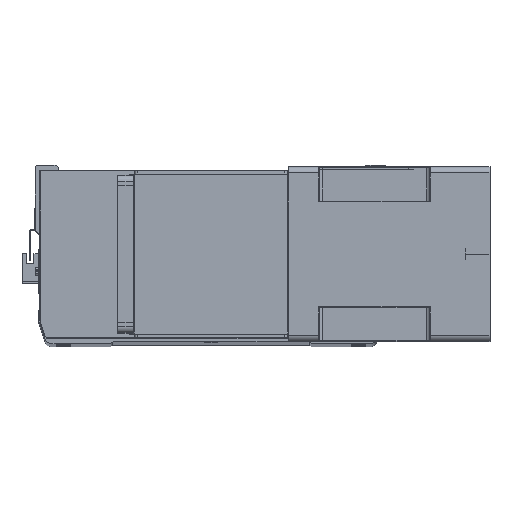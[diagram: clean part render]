
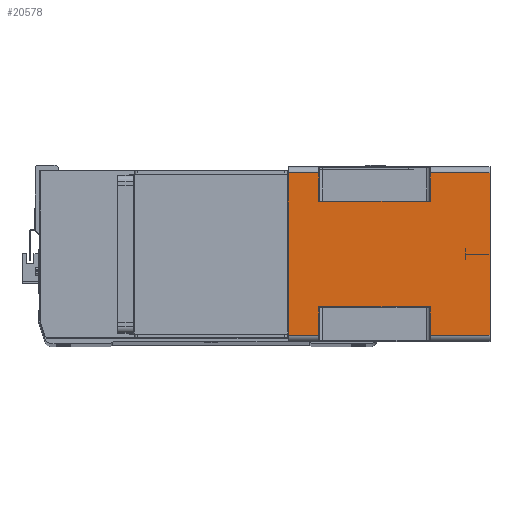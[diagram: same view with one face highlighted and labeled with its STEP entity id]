
A CAD part, top view. The second image highlights one B-rep face of the part: STEP entity #20578.
In plain terms, the highlighted planar face has unit normal (0, 0, 1) as drawn and (1, 0, 0) by its records, which use the part's own axes.
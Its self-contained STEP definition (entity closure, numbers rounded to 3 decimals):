
#74 = DIRECTION ( 'NONE',  ( 0., 1., 0. ) ) ;
#659 = VERTEX_POINT ( 'NONE', #13664 ) ;
#1725 = EDGE_CURVE ( 'NONE', #17101, #15564, #21702, .T. ) ;
#1761 = CARTESIAN_POINT ( 'NONE',  ( 71., -66., -115.5 ) ) ;
#1765 = VERTEX_POINT ( 'NONE', #10404 ) ;
#2154 = CARTESIAN_POINT ( 'NONE',  ( 71., -43., -24.5 ) ) ;
#2884 = ORIENTED_EDGE ( 'NONE', *, *, #30735, .T. ) ;
#2901 = DIRECTION ( 'NONE',  ( 0., 1., 0. ) ) ;
#3221 = ORIENTED_EDGE ( 'NONE', *, *, #29967, .T. ) ;
#3636 = PLANE ( 'NONE',  #12095 ) ;
#3862 = VECTOR ( 'NONE', #8593, 1000. ) ;
#4167 = DIRECTION ( 'NONE',  ( 0., -1., 0. ) ) ;
#4722 = LINE ( 'NONE', #25003, #16651 ) ;
#5100 = CARTESIAN_POINT ( 'NONE',  ( 71., 43., -115.5 ) ) ;
#5817 = LINE ( 'NONE', #5100, #22667 ) ;
#6003 = VECTOR ( 'NONE', #2901, 1000. ) ;
#6011 = EDGE_CURVE ( 'NONE', #29678, #15564, #4722, .T. ) ;
#6401 = DIRECTION ( 'NONE',  ( 0., 0., -1. ) ) ;
#7153 = VECTOR ( 'NONE', #12909, 1000. ) ;
#7454 = VERTEX_POINT ( 'NONE', #27163 ) ;
#7902 = LINE ( 'NONE', #10616, #7153 ) ;
#7908 = CARTESIAN_POINT ( 'NONE',  ( 71., 66., -164. ) ) ;
#8097 = CARTESIAN_POINT ( 'NONE',  ( 71., -66., -24.5 ) ) ;
#8142 = DIRECTION ( 'NONE',  ( 0., -1., 0. ) ) ;
#8239 = EDGE_CURVE ( 'NONE', #12197, #29108, #25054, .T. ) ;
#8593 = DIRECTION ( 'NONE',  ( 0., 0., 1. ) ) ;
#8599 = ORIENTED_EDGE ( 'NONE', *, *, #1725, .F. ) ;
#8659 = EDGE_CURVE ( 'NONE', #25346, #29108, #20494, .T. ) ;
#9062 = ORIENTED_EDGE ( 'NONE', *, *, #22019, .F. ) ;
#9242 = VECTOR ( 'NONE', #13213, 1000. ) ;
#9318 = VECTOR ( 'NONE', #4167, 1000. ) ;
#10283 = CARTESIAN_POINT ( 'NONE',  ( 71., 66., -164. ) ) ;
#10404 = CARTESIAN_POINT ( 'NONE',  ( 71., 43., -115.5 ) ) ;
#10616 = CARTESIAN_POINT ( 'NONE',  ( 71., -66., -24.5 ) ) ;
#10710 = CARTESIAN_POINT ( 'NONE',  ( 71., -43., -164. ) ) ;
#10981 = VECTOR ( 'NONE', #74, 1000. ) ;
#11336 = EDGE_LOOP ( 'NONE', ( #18308, #16017, #22051, #27863, #26136, #25393, #9062, #2884, #11571, #8599, #24420, #3221 ) ) ;
#11380 = VECTOR ( 'NONE', #17488, 1000. ) ;
#11571 = ORIENTED_EDGE ( 'NONE', *, *, #6011, .T. ) ;
#11595 = DIRECTION ( 'NONE',  ( 0., 0., 1. ) ) ;
#12095 = AXIS2_PLACEMENT_3D ( 'NONE', #20371, #17829, #18039 ) ;
#12197 = VERTEX_POINT ( 'NONE', #27704 ) ;
#12889 = LINE ( 'NONE', #7908, #11380 ) ;
#12909 = DIRECTION ( 'NONE',  ( 0., 1., 0. ) ) ;
#13213 = DIRECTION ( 'NONE',  ( 0., 0., 1. ) ) ;
#13377 = CARTESIAN_POINT ( 'NONE',  ( 71., -66., -164. ) ) ;
#13664 = CARTESIAN_POINT ( 'NONE',  ( 71., 43., -24.5 ) ) ;
#13866 = DIRECTION ( 'NONE',  ( 0., 1., 0. ) ) ;
#14277 = CARTESIAN_POINT ( 'NONE',  ( 71., -43., -115.5 ) ) ;
#14586 = EDGE_CURVE ( 'NONE', #25346, #29788, #17818, .T. ) ;
#14932 = CARTESIAN_POINT ( 'NONE',  ( 71., -66., -115.5 ) ) ;
#15564 = VERTEX_POINT ( 'NONE', #29516 ) ;
#15668 = EDGE_CURVE ( 'NONE', #19062, #17101, #23333, .T. ) ;
#16017 = ORIENTED_EDGE ( 'NONE', *, *, #8659, .T. ) ;
#16510 = LINE ( 'NONE', #23606, #25546 ) ;
#16651 = VECTOR ( 'NONE', #27410, 1000. ) ;
#17101 = VERTEX_POINT ( 'NONE', #26702 ) ;
#17153 = CARTESIAN_POINT ( 'NONE',  ( 71., -43., -24.5 ) ) ;
#17488 = DIRECTION ( 'NONE',  ( 0., 0., 1. ) ) ;
#17818 = LINE ( 'NONE', #10710, #9242 ) ;
#17829 = DIRECTION ( 'NONE',  ( 1., 0., 0. ) ) ;
#18039 = DIRECTION ( 'NONE',  ( 0., 1., 0. ) ) ;
#18073 = CARTESIAN_POINT ( 'NONE',  ( 71., -66., -164. ) ) ;
#18308 = ORIENTED_EDGE ( 'NONE', *, *, #14586, .F. ) ;
#19062 = VERTEX_POINT ( 'NONE', #8097 ) ;
#19483 = VECTOR ( 'NONE', #6401, 1000. ) ;
#19928 = CARTESIAN_POINT ( 'NONE',  ( 71., -66., 0. ) ) ;
#20371 = CARTESIAN_POINT ( 'NONE',  ( 71., -66., -164. ) ) ;
#20494 = LINE ( 'NONE', #1761, #9318 ) ;
#20578 = ADVANCED_FACE ( 'NONE', ( #25688 ), #3636, .T. ) ;
#21702 = LINE ( 'NONE', #19928, #6003 ) ;
#22019 = EDGE_CURVE ( 'NONE', #659, #1765, #28146, .T. ) ;
#22051 = ORIENTED_EDGE ( 'NONE', *, *, #8239, .F. ) ;
#22207 = LINE ( 'NONE', #17153, #10981 ) ;
#22644 = VERTEX_POINT ( 'NONE', #10283 ) ;
#22667 = VECTOR ( 'NONE', #8142, 1000. ) ;
#23157 = VECTOR ( 'NONE', #11595, 1000. ) ;
#23333 = LINE ( 'NONE', #18073, #3862 ) ;
#23606 = CARTESIAN_POINT ( 'NONE',  ( 71., -66., -164. ) ) ;
#24420 = ORIENTED_EDGE ( 'NONE', *, *, #15668, .F. ) ;
#25003 = CARTESIAN_POINT ( 'NONE',  ( 71., 66., -164. ) ) ;
#25054 = LINE ( 'NONE', #13377, #23157 ) ;
#25311 = CARTESIAN_POINT ( 'NONE',  ( 71., 43., -164. ) ) ;
#25346 = VERTEX_POINT ( 'NONE', #14277 ) ;
#25393 = ORIENTED_EDGE ( 'NONE', *, *, #29170, .T. ) ;
#25479 = EDGE_CURVE ( 'NONE', #22644, #7454, #12889, .T. ) ;
#25546 = VECTOR ( 'NONE', #13866, 1000. ) ;
#25688 = FACE_OUTER_BOUND ( 'NONE', #11336, .T. ) ;
#26136 = ORIENTED_EDGE ( 'NONE', *, *, #25479, .T. ) ;
#26702 = CARTESIAN_POINT ( 'NONE',  ( 71., -66., 0. ) ) ;
#26851 = EDGE_CURVE ( 'NONE', #12197, #22644, #16510, .T. ) ;
#27163 = CARTESIAN_POINT ( 'NONE',  ( 71., 66., -115.5 ) ) ;
#27410 = DIRECTION ( 'NONE',  ( 0., 0., 1. ) ) ;
#27704 = CARTESIAN_POINT ( 'NONE',  ( 71., -66., -164. ) ) ;
#27863 = ORIENTED_EDGE ( 'NONE', *, *, #26851, .T. ) ;
#28146 = LINE ( 'NONE', #25311, #19483 ) ;
#29108 = VERTEX_POINT ( 'NONE', #14932 ) ;
#29170 = EDGE_CURVE ( 'NONE', #7454, #1765, #5817, .T. ) ;
#29516 = CARTESIAN_POINT ( 'NONE',  ( 71., 66., 0. ) ) ;
#29678 = VERTEX_POINT ( 'NONE', #29683 ) ;
#29683 = CARTESIAN_POINT ( 'NONE',  ( 71., 66., -24.5 ) ) ;
#29788 = VERTEX_POINT ( 'NONE', #2154 ) ;
#29967 = EDGE_CURVE ( 'NONE', #19062, #29788, #22207, .T. ) ;
#30735 = EDGE_CURVE ( 'NONE', #659, #29678, #7902, .T. ) ;
